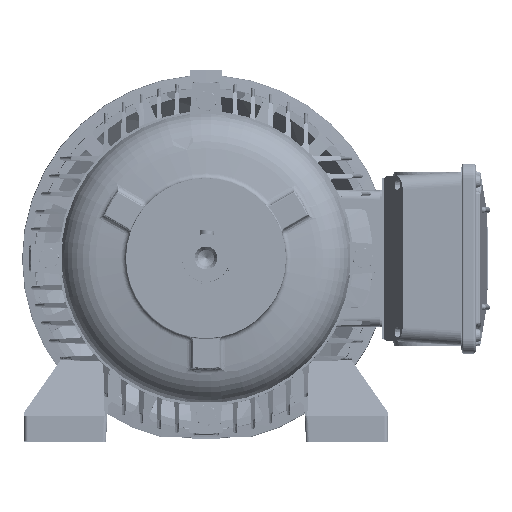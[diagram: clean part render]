
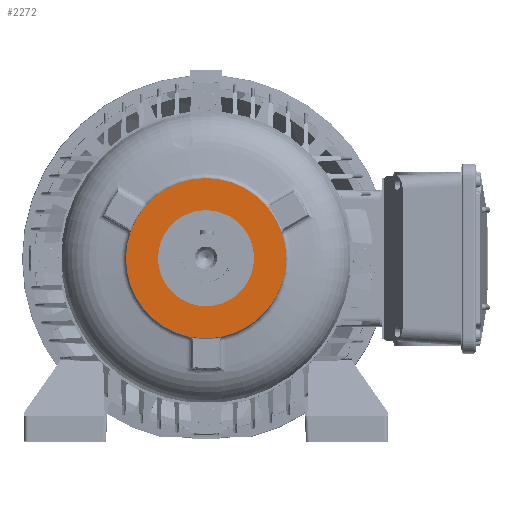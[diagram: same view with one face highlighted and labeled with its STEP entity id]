
A CAD part, top view. The second image highlights one B-rep face of the part: STEP entity #2272.
In plain terms, the highlighted planar face has unit normal (0, 0, 1) as drawn and (-1, 0, 0) by its records, which use the part's own axes.
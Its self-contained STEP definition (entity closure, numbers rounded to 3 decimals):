
#2272 = ADVANCED_FACE ( 'NONE', ( #63180, #20292 ), #163689, .T. ) ;
#15248 = CARTESIAN_POINT ( 'NONE',  ( 2., 0., 0. ) ) ;
#17656 = AXIS2_PLACEMENT_3D ( 'NONE', #191024, #94315, #207264 ) ;
#18977 = CARTESIAN_POINT ( 'NONE',  ( 2., 0., -42. ) ) ;
#20292 = FACE_BOUND ( 'NONE', #159575, .T. ) ;
#23916 = EDGE_CURVE ( 'NONE', #51668, #95646, #119579, .T. ) ;
#25488 = ORIENTED_EDGE ( 'NONE', *, *, #23916, .F. ) ;
#26927 = AXIS2_PLACEMENT_3D ( 'NONE', #15248, #128141, #31460 ) ;
#28794 = CARTESIAN_POINT ( 'NONE',  ( 2., 0., -70. ) ) ;
#31460 = DIRECTION ( 'NONE',  ( 0., 0., 1. ) ) ;
#39657 = ORIENTED_EDGE ( 'NONE', *, *, #121518, .T. ) ;
#51668 = VERTEX_POINT ( 'NONE', #161186 ) ;
#60466 = DIRECTION ( 'NONE',  ( -1., 0., 0. ) ) ;
#63180 = FACE_OUTER_BOUND ( 'NONE', #160964, .T. ) ;
#67058 = EDGE_CURVE ( 'NONE', #95646, #51668, #89575, .T. ) ;
#67659 = DIRECTION ( 'NONE',  ( 0., 0., 1. ) ) ;
#73038 = CARTESIAN_POINT ( 'NONE',  ( 2., 0., 0. ) ) ;
#75399 = AXIS2_PLACEMENT_3D ( 'NONE', #148042, #164369, #67659 ) ;
#79090 = AXIS2_PLACEMENT_3D ( 'NONE', #73038, #185936, #89258 ) ;
#89258 = DIRECTION ( 'NONE',  ( 0., 0., 1. ) ) ;
#89575 = CIRCLE ( 'NONE', #176339, 42. ) ;
#94315 = DIRECTION ( 'NONE',  ( -1., 0., 0. ) ) ;
#95646 = VERTEX_POINT ( 'NONE', #18977 ) ;
#97041 = VERTEX_POINT ( 'NONE', #137797 ) ;
#105413 = CIRCLE ( 'NONE', #26927, 70. ) ;
#108342 = EDGE_CURVE ( 'NONE', #97041, #155038, #196151, .T. ) ;
#119579 = CIRCLE ( 'NONE', #79090, 42. ) ;
#121518 = EDGE_CURVE ( 'NONE', #155038, #97041, #105413, .T. ) ;
#128141 = DIRECTION ( 'NONE',  ( -1., 0., 0. ) ) ;
#137797 = CARTESIAN_POINT ( 'NONE',  ( 2., 0., 70. ) ) ;
#148042 = CARTESIAN_POINT ( 'NONE',  ( 2., -42., 0. ) ) ;
#155038 = VERTEX_POINT ( 'NONE', #28794 ) ;
#157143 = CARTESIAN_POINT ( 'NONE',  ( 2., 0., 0. ) ) ;
#159575 = EDGE_LOOP ( 'NONE', ( #25488, #165053 ) ) ;
#160964 = EDGE_LOOP ( 'NONE', ( #175562, #39657 ) ) ;
#161186 = CARTESIAN_POINT ( 'NONE',  ( 2., 0., 42. ) ) ;
#163689 = PLANE ( 'NONE',  #75399 ) ;
#164369 = DIRECTION ( 'NONE',  ( -1., 0., 0. ) ) ;
#165053 = ORIENTED_EDGE ( 'NONE', *, *, #67058, .F. ) ;
#173462 = DIRECTION ( 'NONE',  ( 0., 0., 1. ) ) ;
#175562 = ORIENTED_EDGE ( 'NONE', *, *, #108342, .T. ) ;
#176339 = AXIS2_PLACEMENT_3D ( 'NONE', #157143, #60466, #173462 ) ;
#185936 = DIRECTION ( 'NONE',  ( -1., 0., 0. ) ) ;
#191024 = CARTESIAN_POINT ( 'NONE',  ( 2., 0., 0. ) ) ;
#196151 = CIRCLE ( 'NONE', #17656, 70. ) ;
#207264 = DIRECTION ( 'NONE',  ( 0., 0., 1. ) ) ;
